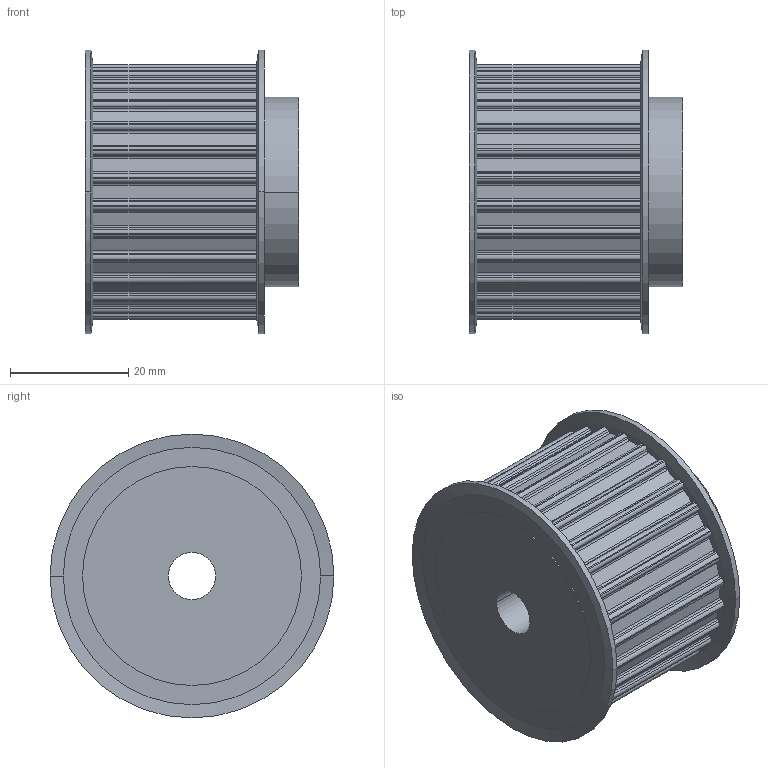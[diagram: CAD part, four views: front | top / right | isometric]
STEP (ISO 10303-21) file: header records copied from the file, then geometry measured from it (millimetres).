
FILE_DESCRIPTION( ( '' ), '1' );
FILE_NAME( 'C:/Users/Stangenbergd/Documents/CAD_Step/1/16642800.stp', '2021-10-19T09:38:13', ( '' ), ( '' ), ' ', ' ', ' ' );
FILE_SCHEMA( ( 'CONFIG_CONTROL_DESIGN' ) );
Length unit declared in the file: millimetre
Products named in the file (1): 1
Bounding box: 36.17 x 48 x 48 mm (x, y, z)
Volume: 45103.1 mm3; surface area: 10734.3 mm2
Topology: 1 solids, 1 shells, 251 faces, 724 edges, 480 vertices
Faces by surface type: cylinder 152, plane 91, cone 8
Entity records: 8414 total; most frequent: DIRECTION 1540, CARTESIAN_POINT 1456, ORIENTED_EDGE 1448, EDGE_CURVE 724, AXIS2_PLACEMENT_3D 564, VERTEX_POINT 480, LINE 412, VECTOR 412
